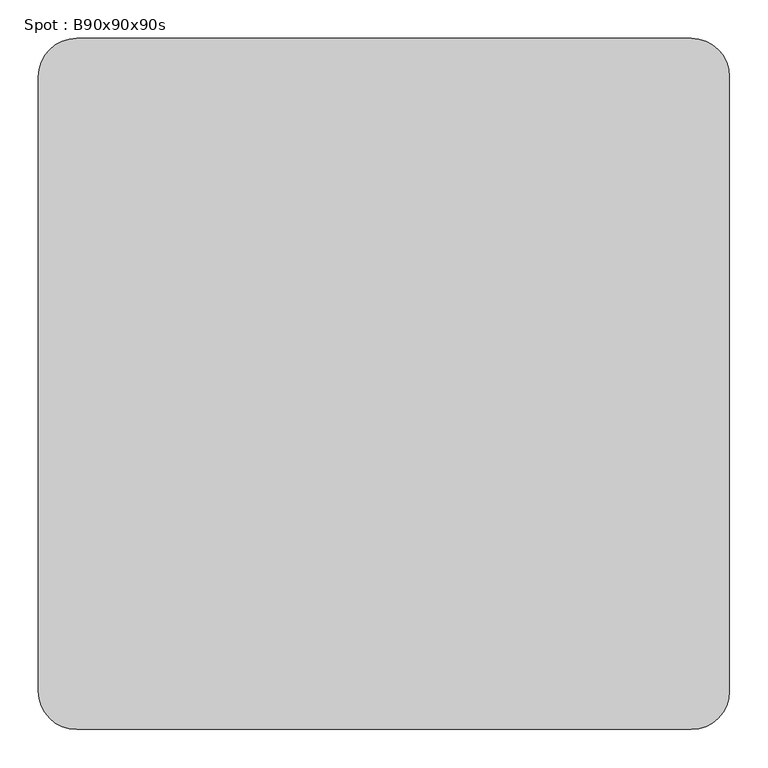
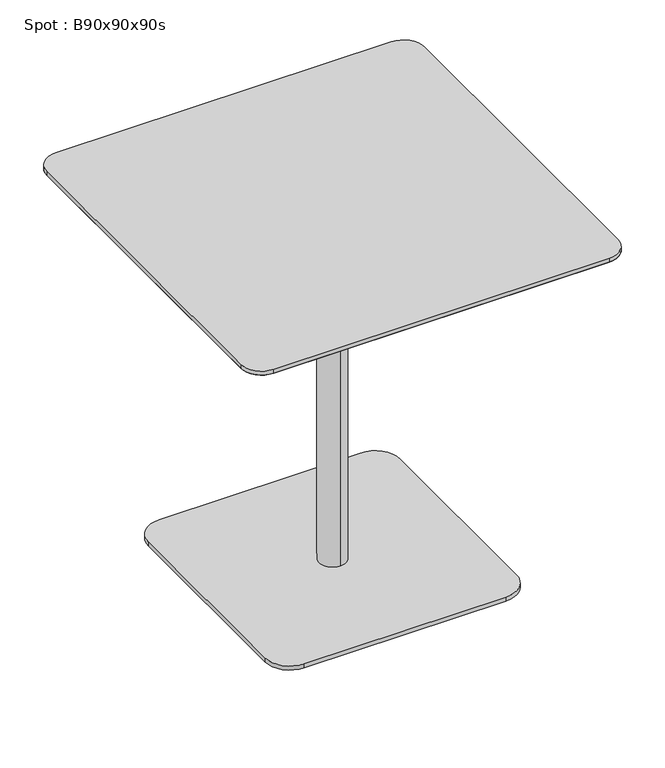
"""IFC4 building model written with IfcOpenShell, lengths in millimetres: furniture geometry, Spot : B90x90x90s."""

from ifc_helpers import new_model, si_unit, point, frame, frame_2d, origin, origin_with_axes, place, context, project, spatial, polyline, circle_curve, trimmed, segment, composite_curve, outline, extrude, source, transform, mapped, element, save
from ifc_brep_helpers import plane_surface, cylinder_surface, revolved_surface, advanced_brep


def spot_b90x90x90s_26c511ba(model_context):
    return source(origin(), model_context, "Body", "SolidModel", [
        advanced_brep(
        [(-400.0, -400.0, 878.0), (-400.0, 400.0, 878.0), (400.0, 400.0, 878.0), (400.0, -400.0, 878.0), (-450.0, -400.0, 890.0), (-400.0, -450.0, 890.0), (400.0, -450.0, 890.0), (450.0, -400.0, 890.0), (450.0, 400.0, 890.0), (400.0, 450.0, 890.0), (-400.0, 450.0, 890.0), (-450.0, 400.0, 890.0)],
        [
            (0, 1),
            (1, 2),
            (2, 3),
            (3, 0),
            (4, 5, circle_curve(frame((-400.0, -400.0, 890.0), z_axis=(0.0, 0.0, 1.0), x_axis=(0.0, -1.0, 0.0)), 50.0)),
            (5, 6),
            (6, 7, circle_curve(frame((400.0, -400.0, 890.0), z_axis=(0.0, 0.0, 1.0), x_axis=(1.0, 0.0, 0.0)), 50.0)),
            (7, 8),
            (8, 9, circle_curve(frame((400.0, 400.0, 890.0), z_axis=(0.0, 0.0, 1.0), x_axis=(0.0, 1.0, 0.0)), 50.0)),
            (9, 10),
            (10, 11, circle_curve(frame((-400.0, 400.0, 890.0), z_axis=(0.0, 0.0, 1.0), x_axis=(-1.0, 0.0, 0.0)), 50.0)),
            (11, 4),
            (4, 0),
            (0, 5),
            (3, 6),
            (3, 7),
            (2, 8),
            (2, 9),
            (1, 10),
            (1, 11),
        ],
        [
            plane_surface(frame((0.0, 0.0, 878.0), z_axis=(0.0, 0.0, -1.0), x_axis=(-1.0, 0.0, 0.0))),
            plane_surface(frame((0.0, 0.0, 890.0), z_axis=(0.0, 0.0, 1.0), x_axis=(-1.0, 0.0, 0.0))),
            revolved_surface(polyline([(-400.0, -400.0, 878.0), (-400.0, -450.0, 890.0)]), (-400.0, -400.0, 878.0), (0.0, 0.0, 1.0)),
            plane_surface(frame((0.0, -450.0, 890.0), z_axis=(0.0, -0.23337295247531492, -0.9723873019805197), x_axis=(-1.0, 0.0, 0.0))),
            revolved_surface(polyline([(400.0, -400.0, 878.0), (450.0, -400.0, 890.0)]), (400.0, -400.0, 878.0), (0.0, 0.0, 1.0)),
            plane_surface(frame((450.0, 0.0, 890.0), z_axis=(0.23337295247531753, 0.0, -0.9723873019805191), x_axis=(0.0, -1.0, 0.0))),
            revolved_surface(polyline([(400.0, 400.0, 878.0), (400.0, 450.0, 890.0)]), (400.0, 400.0, 878.0), (0.0, 0.0, 1.0)),
            plane_surface(frame((0.0, 450.0, 890.0), z_axis=(0.0, 0.2333729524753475, -0.9723873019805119), x_axis=(1.0, 0.0, 0.0))),
            revolved_surface(polyline([(-400.0, 400.0, 878.0), (-450.0, 400.0, 890.0)]), (-400.0, 400.0, 878.0), (0.0, 0.0, 1.0)),
            plane_surface(frame((-450.0, 0.0, 890.0), z_axis=(-0.2333729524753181, 0.0, -0.9723873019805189), x_axis=(0.0, 1.0, 0.0))),
        ],
        [
            (0, [[1, 2, 3, 4]]),
            (1, [[5, 6, 7, 8, 9, 10, 11, 12]]),
            (2, [[-5, 13, 14]]),
            (3, [[-6, -14, -4, 15]]),
            (4, [[-7, -15, 16]]),
            (5, [[-8, -16, -3, 17]]),
            (6, [[-9, -17, 18]]),
            (7, [[-10, -18, -2, 19]]),
            (8, [[-11, -19, 20]]),
            (9, [[-12, -20, -1, -13]]),
        ],
    ),
        extrude(outline(composite_curve([segment(trimmed(circle_curve(frame_2d((400.0, 400.0)), 50.0), [point((400.0, 450.0))], [point((450.0, 400.0))], False, "CARTESIAN"), True, "CONTINUOUS"), segment(polyline([(450.0, 400.0), (450.0, -400.0)]), True, "CONTINUOUS"), segment(trimmed(circle_curve(frame_2d((400.0, -400.0)), 50.0), [point((450.0, -400.0))], [point((400.0, -450.0))], False, "CARTESIAN"), True, "CONTINUOUS"), segment(polyline([(400.0, -450.0), (-400.0, -450.0)]), True, "CONTINUOUS"), segment(trimmed(circle_curve(frame_2d((-400.0, -400.0)), 50.0), [point((-400.0, -450.0))], [point((-450.0, -400.0))], False, "CARTESIAN"), True, "CONTINUOUS"), segment(polyline([(-450.0, -400.0), (-450.0, 400.0)]), True, "CONTINUOUS"), segment(trimmed(circle_curve(frame_2d((-400.0, 400.0)), 50.0), [point((-450.0, 400.0))], [point((-400.0, 450.0))], False, "CARTESIAN"), True, "CONTINUOUS"), segment(polyline([(-400.0, 450.0), (400.0, 450.0)]), True, "CONTINUOUS")], self_intersect=False)), frame((0.0, 0.0, 890.0), z_axis=(0.0, 0.0, 1.0), x_axis=(1.0, 0.0, 0.0)), (0.0, 0.0, 1.0), 10.0),
        extrude(outline(composite_curve([segment(trimmed(circle_curve(frame_2d((240.0, 240.0)), 60.0), [point((240.0, 300.0))], [point((300.0, 240.0))], False, "CARTESIAN"), True, "CONTINUOUS"), segment(polyline([(300.0, 240.0), (300.0, -240.0)]), True, "CONTINUOUS"), segment(trimmed(circle_curve(frame_2d((240.0, -240.0)), 60.0), [point((300.0, -240.0))], [point((240.0, -300.0))], False, "CARTESIAN"), True, "CONTINUOUS"), segment(polyline([(240.0, -300.0), (-240.0, -300.0)]), True, "CONTINUOUS"), segment(trimmed(circle_curve(frame_2d((-240.0, -240.0)), 60.0), [point((-240.0, -300.0))], [point((-300.0, -240.0))], False, "CARTESIAN"), True, "CONTINUOUS"), segment(polyline([(-300.0, -240.0), (-300.0, 240.0)]), True, "CONTINUOUS"), segment(trimmed(circle_curve(frame_2d((-240.0, 240.0)), 60.0), [point((-300.0, 240.0))], [point((-240.0, 300.0))], False, "CARTESIAN"), True, "CONTINUOUS"), segment(polyline([(-240.0, 300.0), (240.0, 300.0)]), True, "CONTINUOUS")], self_intersect=False)), origin_with_axes(), (0.0, 0.0, 1.0), 10.0),
        advanced_brep(
        [(0.0, 32.0, 10.0), (0.0, -32.0, 10.0), (0.0, -32.0, 847.406916), (0.0, 32.0, 847.406916), (0.0, 0.0, 10.0), (0.0, 150.0, 878.0), (0.0, -150.0, 878.0), (0.0, 0.0, 878.0), (0.0, 150.0, 866.7213673), (0.0, -150.0, 866.7213673)],
        [
            (0, 1, circle_curve(frame((0.0, 0.0, 10.0), z_axis=(0.0, 0.0, 1.0), x_axis=(0.0, -1.0, 0.0)), 32.0)),
            (1, 2),
            (2, 3, circle_curve(frame((0.0, 0.0, 847.406916), z_axis=(0.0, 0.0, -1.0), x_axis=(0.0, -1.0, 0.0)), 32.0)),
            (3, 0),
            (1, 0, circle_curve(frame((0.0, 0.0, 10.0), z_axis=(0.0, 0.0, 1.0), x_axis=(0.0, -1.0, 0.0)), 32.0)),
            (3, 2, circle_curve(frame((0.0, 0.0, 847.406916), z_axis=(0.0, 0.0, -1.0), x_axis=(0.0, -1.0, 0.0)), 32.0)),
            (4, 1),
            (0, 4),
            (5, 6, circle_curve(frame((0.0, 0.0, 878.0), z_axis=(0.0, 0.0, 1.0), x_axis=(0.0, -1.0, 0.0)), 150.0)),
            (6, 7),
            (7, 5),
            (6, 5, circle_curve(frame((0.0, 0.0, 878.0), z_axis=(0.0, 0.0, 1.0), x_axis=(0.0, -1.0, 0.0)), 150.0)),
            (8, 9, circle_curve(frame((0.0, 0.0, 866.7213673), z_axis=(0.0, 0.0, 1.0), x_axis=(0.0, -1.0, 0.0)), 150.0)),
            (9, 6),
            (5, 8),
            (9, 8, circle_curve(frame((0.0, 0.0, 866.7213673), z_axis=(0.0, 0.0, 1.0), x_axis=(0.0, -1.0, 0.0)), 150.0)),
            (2, 9),
            (8, 3),
        ],
        [
            cylinder_surface(frame((0.0, 0.0, 1240.0), z_axis=(0.0, 0.0, -1.0), x_axis=(0.0, -1.0, 0.0)), 32.0),
            plane_surface(frame((0.0, 0.0, 10.0), z_axis=(0.0, 0.0, -1.0), x_axis=(0.0, -1.0, 0.0))),
            plane_surface(frame((0.0, 0.0, 878.0), z_axis=(0.0, 0.0, 1.0), x_axis=(0.0, -1.0, 0.0))),
            cylinder_surface(frame((0.0, 0.0, 1240.0), z_axis=(0.0, 0.0, -1.0), x_axis=(0.0, -1.0, 0.0)), 150.0),
            revolved_surface(polyline([(0.0, -150.0, 866.7213673), (0.0, -32.0, 847.406916)]), (0.0, 0.0, 1240.0), (0.0, 0.0, -1.0)),
        ],
        [
            (0, [[1, 2, 3, 4]]),
            (0, [[5, -4, 6, -2]]),
            (1, [[7, -1, 8]]),
            (1, [[-8, -5, -7]]),
            (2, [[9, 10, 11]]),
            (2, [[12, -11, -10]]),
            (3, [[13, 14, -9, 15]]),
            (3, [[16, -15, -12, -14]]),
            (4, [[-3, 17, -13, 18]]),
            (4, [[-6, -18, -16, -17]]),
        ],
    ),
        extrude(outline(polyline([(0.0, 0.0), (-20.0, 0.0), (-20.0, 20.0), (0.0, 20.0), (0.0, 0.0)])), origin_with_axes(), (0.0, 0.0, 1.0), 10.0),
    ])


if __name__ == "__main__":
    model = new_model("IFC4")
    model_context = context("Model", 3, world=origin())
    ifc_project = project(units=[si_unit("LENGTHUNIT", "METRE", prefix="MILLI")], contexts=[model_context])
    site = spatial("IfcSite", under=ifc_project)
    building = spatial("IfcBuilding", under=site)
    placement = place(None, origin())
    spot_b90x90x90s_shape = spot_b90x90x90s_26c511ba(model_context)
    element("IfcFurniture", 1, ObjectType="Spot : B90x90x90s", at=placement, inside=building, context=model_context, shape_type="MappedRepresentation", body=[
        mapped(spot_b90x90x90s_shape, transform((0.0, 0.0, 0.0), x_axis=(1.0, 0.0, 0.0), y_axis=(0.0, 1.0, 0.0), z_axis=(0.0, 0.0, 1.0))),
    ])
    save(model, "model.ifc")
